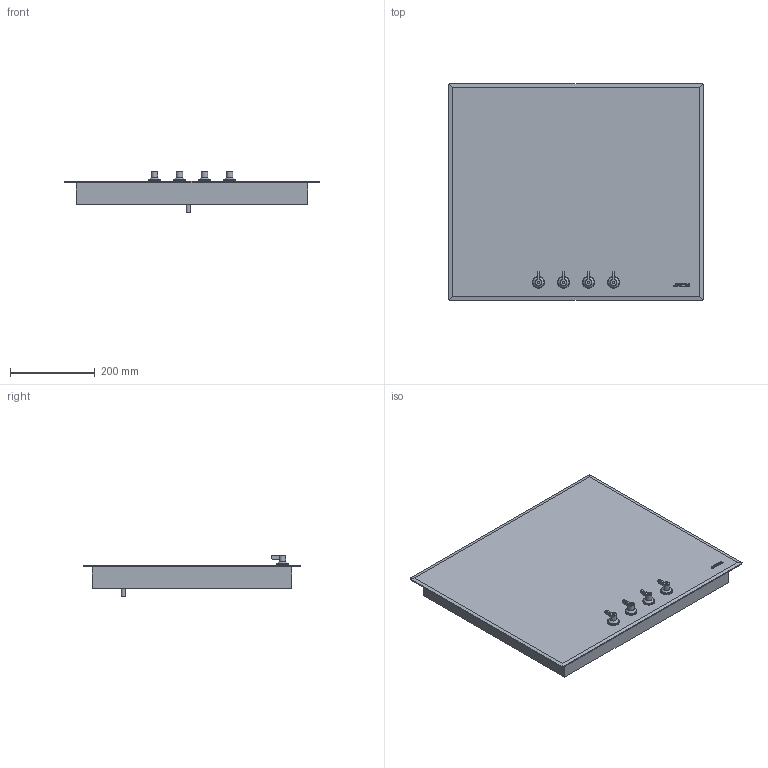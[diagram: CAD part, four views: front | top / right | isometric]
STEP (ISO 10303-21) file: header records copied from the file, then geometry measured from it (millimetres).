
FILE_DESCRIPTION(/* description */ (''),/* implementation_level */ '2;1');
FILE_NAME(/* name */ 'piano si364bm.stp',/* time_stamp */ '2019-03-11T15:31:24+01:00',/* author */ (''),/* organization */ (''),/* preprocessor_version */ 'ST-DEVELOPER v16',/* originating_system */ 'SIEMENS PLM Software NX 11.0',/* authorisation */ '');
FILE_SCHEMA (('AUTOMOTIVE_DESIGN { 1 0 10303 214 3 1 1 1 }'));
Length unit declared in the file: millimetre
Products named in the file (1): gobb2214BED370fo
Bounding box: 600 x 510 x 98 mm (x, y, z)
Volume: 14185114.9 mm3; surface area: 1255029.1 mm2
Topology: 20 solids, 20 shells, 184 faces, 382 edges, 252 vertices
Faces by surface type: plane 108, cylinder 49, torus 12, extrusion 11, cone 4
Full cylindrical faces by diameter (mm): 3.37 x6, 6 x4, 10 x1, 14.996 x4, 15 x4, 22 x4, 28 x4
Entity records: 5112 total; most frequent: CARTESIAN_POINT 1186, DIRECTION 784, ORIENTED_EDGE 668, EDGE_CURVE 334, AXIS2_PLACEMENT_3D 296, VERTEX_POINT 244, EDGE_LOOP 242, VECTOR 192
